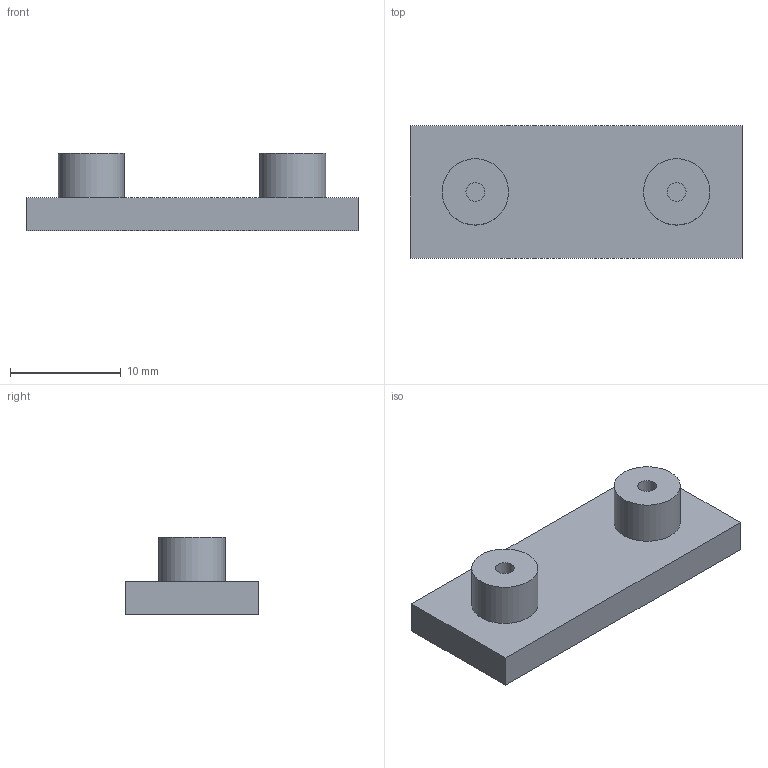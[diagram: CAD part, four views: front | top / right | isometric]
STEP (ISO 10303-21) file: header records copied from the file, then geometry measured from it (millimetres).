
FILE_DESCRIPTION(('Open CASCADE Model'),'2;1');
FILE_NAME('Open CASCADE Shape Model','2026-09-15T13:32:55',('Author'),( 'Open CASCADE'),'Open CASCADE STEP processor 7.7','Open CASCADE 7.7' ,'Unknown');
FILE_SCHEMA(('AUTOMOTIVE_DESIGN { 1 0 10303 214 1 1 1 1 }'));
Length unit declared in the file: millimetre
Products named in the file (1): QP03_SPEAKER_BEAM_FIXTURE
Bounding box: 30 x 12 x 7 mm (x, y, z)
Volume: 1290.5 mm3; surface area: 1159.6 mm2
Topology: 1 solids, 1 shells, 14 faces, 24 edges, 16 vertices
Faces by surface type: plane 10, cylinder 4
Full cylindrical faces by diameter (mm): 1.7 x2, 6 x2
Entity records: 658 total; most frequent: DIRECTION 110, CARTESIAN_POINT 103, LINE 56, VECTOR 56, ORIENTED_EDGE 48, PCURVE 48, DEFINITIONAL_REPRESENTATION 48, EDGE_CURVE 24
